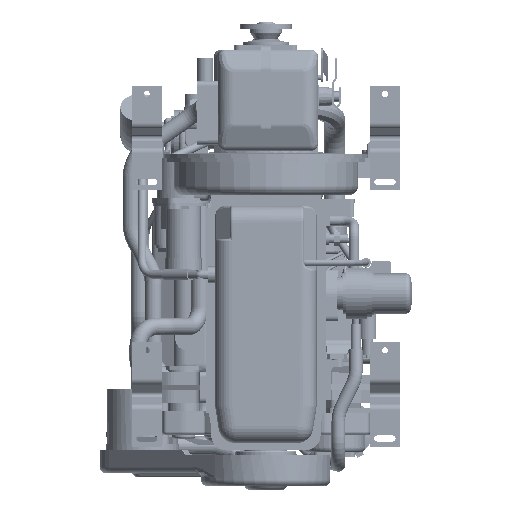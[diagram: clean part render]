
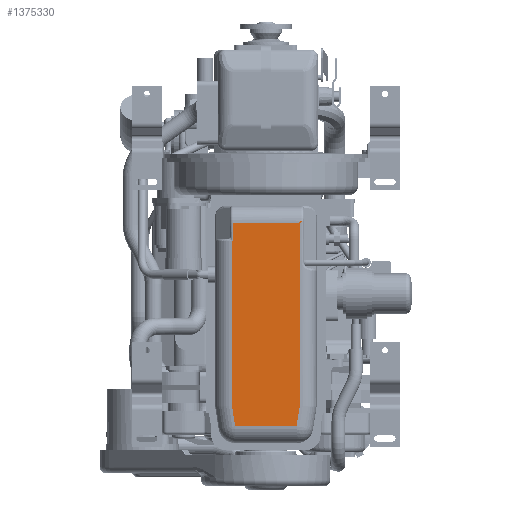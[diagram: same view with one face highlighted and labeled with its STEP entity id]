
A CAD part, front view. The second image highlights one B-rep face of the part: STEP entity #1375330.
In plain terms, the highlighted planar face has unit normal (0, -1, 0).
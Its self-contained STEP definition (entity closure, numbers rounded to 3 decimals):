
#1361720=CARTESIAN_POINT('',(-65.5,-187.,-3.9));
#1361730=VERTEX_POINT('',#1361720);
#1361780=CARTESIAN_POINT('',(-65.5,-187.,-5.));
#1361790=DIRECTION('',(0.,-1.,0.));
#1361800=DIRECTION('',(0.,0.,-1.));
#1361810=AXIS2_PLACEMENT_3D('',#1361780,#1361790,#1361800);
#1361820=CIRCLE('',#1361810,1.1);
#1361830=CARTESIAN_POINT('',(-66.6,-187.,-5.))
;
#1361840=VERTEX_POINT('',#1361830);
#1361850=EDGE_CURVE('',#1361730,#1361840,#1361820,.T.);
#1366080=CARTESIAN_POINT('',(67.,-187.,-329.));
#1366090=VERTEX_POINT('',#1366080);
#1366240=CARTESIAN_POINT('',(66.988,-187.,-329.154));
#1366250=VERTEX_POINT('',#1366240);
#1366280=CARTESIAN_POINT('',(66.,-187.,
-329.));
#1366290=DIRECTION('',(0.,1.,0.));
#1366300=DIRECTION('',(1.,0.,0.));
#1366310=AXIS2_PLACEMENT_3D('',#1366280,#1366290,#1366300);
#1366320=CIRCLE('',#1366310,1.);
#1366330=EDGE_CURVE('',#1366090,#1366250,#1366320,.T.);
#1366720=CARTESIAN_POINT('',(60.619,-187.,-370.));
#1366730=VERTEX_POINT('',#1366720);
#1366990=CARTESIAN_POINT('',(-60.619,-187.,-370.));
#1367000=VERTEX_POINT('',#1366990);
#1367030=CARTESIAN_POINT('',(-61.119,-187.,-370.));
#1367040=DIRECTION('',(1.,0.,0.));
#1367050=VECTOR('',#1367040,1.);
#1367060=LINE('',#1367030,#1367050);
#1367070=EDGE_CURVE('',#1367000,#1366730,#1367060,.T.);
#1367420=CARTESIAN_POINT('',(-67.,-187.,-5.));
#1367430=DIRECTION('',(0.,0.,-1.));
#1367440=VECTOR('',#1367430,1.);
#1367450=LINE('',#1367420,#1367440);
#1367460=CARTESIAN_POINT('',(-67.,-187.,-5.));
#1367470=VERTEX_POINT('',#1367460);
#1367480=CARTESIAN_POINT('',(-67.,-187.,-329.));
#1367490=VERTEX_POINT('',#1367480);
#1367500=EDGE_CURVE('',#1367470,#1367490,#1367450,.T.);
#1367820=CARTESIAN_POINT('',(-66.988,-187.,-329.154))
;
#1367830=VERTEX_POINT('',#1367820);
#1367940=CARTESIAN_POINT('',(-66.,-187.,-329.))
;
#1367950=DIRECTION('',(0.,1.,0.));
#1367960=DIRECTION('',(1.,0.,0.));
#1367970=AXIS2_PLACEMENT_3D('',#1367940,#1367950,#1367960);
#1367980=CIRCLE('',#1367970,1.);
#1367990=EDGE_CURVE('',#1367830,#1367490,#1367980,.T.);
#1368200=CARTESIAN_POINT('',(67.,-187.,30.2));
#1368210=VERTEX_POINT('',#1368200);
#1368260=CARTESIAN_POINT('',(67.,-187.,32.));
#1368270=DIRECTION('',(0.,-1.,0.));
#1368280=DIRECTION('',(0.,0.,-1.));
#1368290=AXIS2_PLACEMENT_3D('',#1368260,#1368270,#1368280);
#1368300=CIRCLE('',#1368290,1.8);
#1368310=CARTESIAN_POINT('',(68.708,-187.,32.569));
#1368320=VERTEX_POINT('',#1368310);
#1368330=EDGE_CURVE('',#1368210,#1368320,#1368300,.T.);
#1368880=CARTESIAN_POINT('',(-66.988,-187.,-329.154))
;
#1368890=DIRECTION('',(0.154,0.,-0.988));
#1368900=VECTOR('',#1368890,1.);
#1368910=LINE('',#1368880,#1368900);
#1368920=EDGE_CURVE('',#1367830,#1367000,#1368910,.T.);
#1369050=CARTESIAN_POINT('',(60.619,-187.,-370.));
#1369060=DIRECTION('',(0.154,0.,0.988));
#1369070=VECTOR('',#1369060,1.);
#1369080=LINE('',#1369050,#1369070);
#1369090=EDGE_CURVE('',#1366730,#1366250,#1369080,.T.);
#1373400=CARTESIAN_POINT('',(67.492,-187.,33.731));
#1373410=VERTEX_POINT('',#1373400);
#1373420=CARTESIAN_POINT('',(67.,-187.,33.8));
#1373430=VERTEX_POINT('',#1373420);
#1373440=EDGE_CURVE('',#1373410,#1373430,#1368300,.T.);
#1374600=CARTESIAN_POINT('',(-65.5,-187.,32.));
#1374610=VERTEX_POINT('',#1374600);
#1374740=CARTESIAN_POINT('',(70.382,-187.,42.082));
#1374750=DIRECTION('',(-0.,-1.,-0.));
#1374760=DIRECTION('',(-1.,0.,0.));
#1374770=AXIS2_PLACEMENT_3D('',#1374740,#1374750,#1374760);
#1374780=PLANE('',#1374770);
#1374790=ORIENTED_EDGE('',*,*,#1361850,.T.);
#1374800=CARTESIAN_POINT('',(-65.5,-187.,32.));
#1374810=DIRECTION('',(0.,0.,-1.));
#1374820=VECTOR('',#1374810,1.);
#1374830=LINE('',#1374800,#1374820);
#1374840=EDGE_CURVE('',#1374610,#1361730,#1374830,.T.);
#1374850=ORIENTED_EDGE('',*,*,#1374840,.T.);
#1374860=CARTESIAN_POINT('',(-66.,-187.,32.));
#1374870=DIRECTION('',(1.,0.,0.));
#1374880=VECTOR('',#1374870,1.);
#1374890=LINE('',#1374860,#1374880);
#1374900=CARTESIAN_POINT('',(65.2,-187.,32.));
#1374910=VERTEX_POINT('',#1374900);
#1374920=EDGE_CURVE('',#1374610,#1374910,#1374890,.T.);
#1374930=ORIENTED_EDGE('',*,*,#1374920,.F.);
#1374940=EDGE_CURVE('',#1373430,#1374910,#1368300,.T.);
#1374950=ORIENTED_EDGE('',*,*,#1374940,.T.);
#1374960=ORIENTED_EDGE('',*,*,#1373440,.T.);
#1374970=CARTESIAN_POINT('',(69.2,-187.,34.3));
#1374980=DIRECTION('',(0.,-1.,0.));
#1374990=DIRECTION('',(0.,0.,-1.));
#1375000=AXIS2_PLACEMENT_3D('',#1374970,#1374980,#1374990);
#1375010=CIRCLE('',#1375000,1.8);
#1375020=CARTESIAN_POINT('',(69.2,-187.,36.1));
#1375030=VERTEX_POINT('',#1375020);
#1375040=EDGE_CURVE('',#1375030,#1373410,#1375010,.T.);
#1375050=ORIENTED_EDGE('',*,*,#1375040,.T.);
#1375060=CARTESIAN_POINT('',(69.2,-187.,32.5));
#1375070=VERTEX_POINT('',#1375060);
#1375080=EDGE_CURVE('',#1375070,#1375030,#1375010,.T.);
#1375090=ORIENTED_EDGE('',*,*,#1375080,.T.);
#1375100=EDGE_CURVE('',#1368320,#1375070,#1375010,.T.);
#1375110=ORIENTED_EDGE('',*,*,#1375100,.T.);
#1375120=ORIENTED_EDGE('',*,*,#1368330,.T.);
#1375130=CARTESIAN_POINT('',(67.,-187.,-329.));
#1375140=DIRECTION('',(0.,0.,1.));
#1375150=VECTOR('',#1375140,1.);
#1375160=LINE('',#1375130,#1375150);
#1375170=EDGE_CURVE('',#1366090,#1368210,#1375160,.T.);
#1375180=ORIENTED_EDGE('',*,*,#1375170,.T.);
#1375190=ORIENTED_EDGE('',*,*,#1366330,.F.);
#1375200=ORIENTED_EDGE('',*,*,#1369090,.T.);
#1375210=ORIENTED_EDGE('',*,*,#1367070,.T.);
#1375220=ORIENTED_EDGE('',*,*,#1368920,.T.);
#1375230=ORIENTED_EDGE('',*,*,#1367990,.F.);
#1375240=ORIENTED_EDGE('',*,*,#1367500,.T.);
#1375250=CARTESIAN_POINT('',(-67.074,-187.,
-5.));
#1375260=DIRECTION('',(1.,0.,0.));
#1375270=VECTOR('',#1375260,1.);
#1375280=LINE('',#1375250,#1375270);
#1375290=EDGE_CURVE('',#1367470,#1361840,#1375280,.T.);
#1375300=ORIENTED_EDGE('',*,*,#1375290,.F.);
#1375310=EDGE_LOOP('',(#1375300,#1375240,#1375230,#1375220,#1375210,
#1375200,#1375190,#1375180,#1375120,#1375110,#1375090,#1375050,#1374960,
#1374950,#1374930,#1374850,#1374790));
#1375320=FACE_OUTER_BOUND('',#1375310,.T.);
#1375330=ADVANCED_FACE('',(#1375320),#1374780,.T.);
